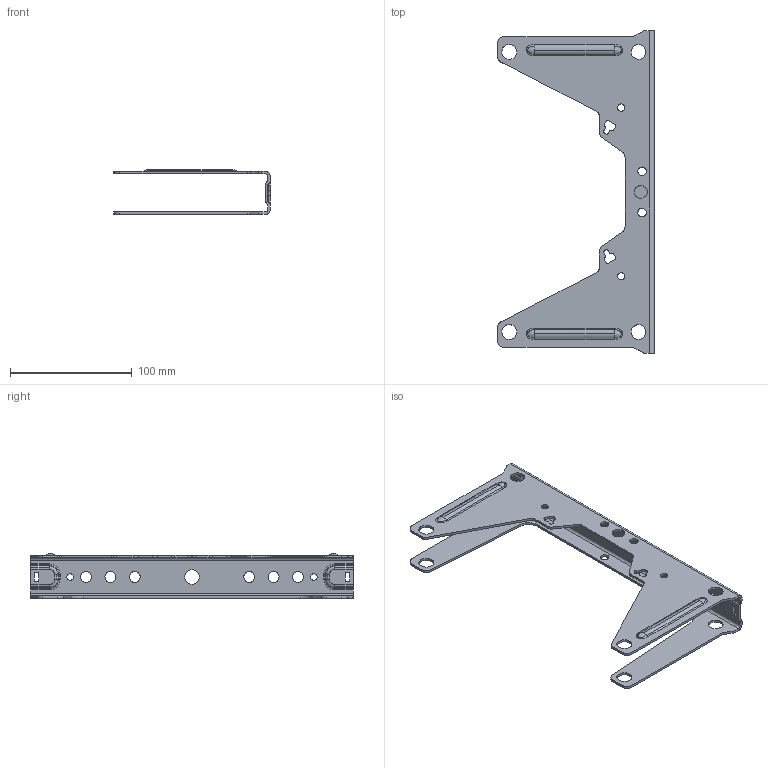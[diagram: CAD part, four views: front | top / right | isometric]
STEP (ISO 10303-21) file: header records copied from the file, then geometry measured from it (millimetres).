
FILE_DESCRIPTION(('CATIA V5 STEP Exchange'),'2;1');
FILE_NAME('C:\Users\nobody\Desktop\SHT0010215_D.stp','2024-04-01T03:26:25+00:00',('none'),('none'),'CATIA Version 5 Release 20 GA (IN-10)','CATIA V5 STEP AP203 Edition 2','none');
FILE_SCHEMA(('AP203_CONFIGURATION_CONTROLLED_3D_DESIGN_OF_MECHANICAL_PARTS_AND_ASSEMBLIES_MIM_LF { 1 0 10303 403 2 1 2}'));
Length unit declared in the file: millimetre
Products named in the file (1): SHT0010215
Bounding box: 128.5 x 265 x 36.7 mm (x, y, z)
Volume: 65233.8 mm3; surface area: 69664.7 mm2
Topology: 1 solids, 1 shells, 274 faces, 774 edges, 506 vertices
Faces by surface type: cylinder 160, plane 68, bspline 46
Entity records: 12407 total; most frequent: CARTESIAN_POINT 5860, ORIENTED_EDGE 1548, DIRECTION 962, EDGE_CURVE 774, VERTEX_POINT 506, AXIS2_PLACEMENT_3D 402, VECTOR 372, LINE 372
